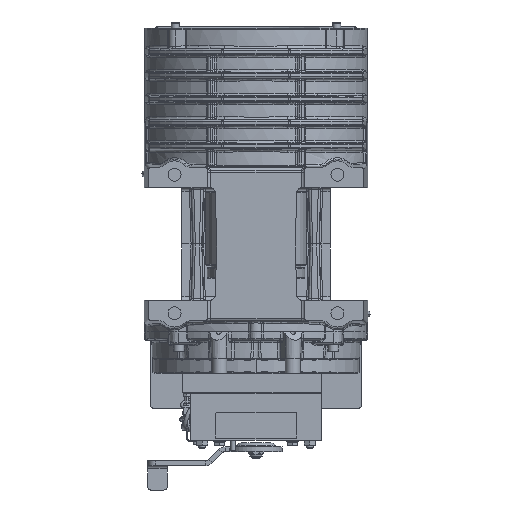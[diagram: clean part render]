
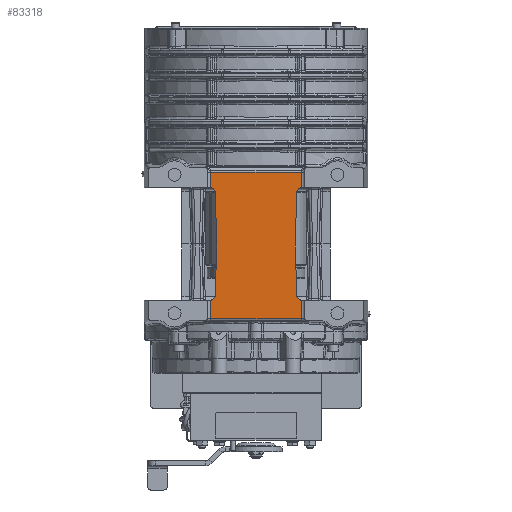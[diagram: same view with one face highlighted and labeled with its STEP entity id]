
A CAD part, front view. The second image highlights one B-rep face of the part: STEP entity #83318.
In plain terms, the highlighted planar face has unit normal (0, -1, 0).
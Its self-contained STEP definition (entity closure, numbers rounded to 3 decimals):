
#2184=DIRECTION('',(0.,0.,-1.));
#2185=VECTOR('',#2184,22.556);
#2186=CARTESIAN_POINT('',(-55.82,-145.,-68.988));
#2187=LINE('',#2186,#2185);
#2223=DIRECTION('',(1.,0.,0.));
#2224=VECTOR('',#2223,111.64);
#2225=CARTESIAN_POINT('',(-55.82,-145.,-91.544));
#2226=LINE('',#2225,#2224);
#24293=DIRECTION('',(0.,0.,1.));
#24294=VECTOR('',#24293,19.241);
#24295=CARTESIAN_POINT('',(55.82,-145.,68.988));
#24296=LINE('',#24295,#24294);
#24835=CARTESIAN_POINT('',(-56.204,-145.,-63.));
#24836=DIRECTION('',(0.,-1.,0.));
#24837=DIRECTION('',(0.064,0.,-0.998));
#24838=AXIS2_PLACEMENT_3D('',#24835,#24836,#24837);
#24840=DIRECTION('',(0.035,0.,0.999));
#24841=VECTOR('',#24840,63.248);
#24842=CARTESIAN_POINT('',(-50.207,-145.,-63.209));
#24843=LINE('',#24842,#24841);
#24844=DIRECTION('',(-0.035,0.,0.999));
#24845=VECTOR('',#24844,63.248);
#24846=CARTESIAN_POINT('',(-48.,-145.,0.));
#24847=LINE('',#24846,#24845);
#24848=CARTESIAN_POINT('',(-56.204,-145.,63.));
#24849=DIRECTION('',(0.,-1.,0.));
#24850=DIRECTION('',(0.999,0.,0.035));
#24851=AXIS2_PLACEMENT_3D('',#24848,#24849,#24850);
#24853=CARTESIAN_POINT('',(56.204,-145.,63.));
#24854=DIRECTION('',(0.,-1.,0.));
#24855=DIRECTION('',(-0.064,0.,0.998));
#24856=AXIS2_PLACEMENT_3D('',#24853,#24854,#24855);
#24858=DIRECTION('',(-0.035,0.,-0.999));
#24859=VECTOR('',#24858,63.248);
#24860=CARTESIAN_POINT('',(50.207,-145.,63.209));
#24861=LINE('',#24860,#24859);
#24862=DIRECTION('',(0.035,0.,-0.999));
#24863=VECTOR('',#24862,63.248);
#24864=CARTESIAN_POINT('',(48.,-145.,0.));
#24865=LINE('',#24864,#24863);
#24866=CARTESIAN_POINT('',(56.204,-145.,-63.));
#24867=DIRECTION('',(0.,-1.,0.));
#24868=DIRECTION('',(-0.999,0.,-0.035));
#24869=AXIS2_PLACEMENT_3D('',#24866,#24867,#24868);
#25660=DIRECTION('',(0.,0.,1.));
#25661=VECTOR('',#25660,22.556);
#25662=CARTESIAN_POINT('',(55.82,-145.,-91.544));
#25663=LINE('',#25662,#25661);
#25981=DIRECTION('',(0.,0.,-1.));
#25982=VECTOR('',#25981,19.241);
#25983=CARTESIAN_POINT('',(-55.82,-145.,88.229));
#25984=LINE('',#25983,#25982);
#28002=DIRECTION('',(-1.,0.,0.));
#28003=VECTOR('',#28002,111.64);
#28004=CARTESIAN_POINT('',(55.82,-145.,88.229));
#28005=LINE('',#28004,#28003);
#41615=CARTESIAN_POINT('',(-50.207,-145.,63.209));
#41616=CARTESIAN_POINT('',(-55.82,-145.,68.988));
#41617=VERTEX_POINT('',#41615);
#41618=VERTEX_POINT('',#41616);
#41619=CARTESIAN_POINT('',(-55.82,-145.,-91.544));
#41620=CARTESIAN_POINT('',(55.82,-145.,-91.544));
#41621=VERTEX_POINT('',#41619);
#41622=VERTEX_POINT('',#41620);
#41623=CARTESIAN_POINT('',(-55.82,-145.,-68.988));
#41624=VERTEX_POINT('',#41623);
#41625=CARTESIAN_POINT('',(-50.207,-145.,-63.209));
#41626=VERTEX_POINT('',#41625);
#41627=CARTESIAN_POINT('',(-48.,-145.,0.));
#41628=VERTEX_POINT('',#41627);
#41629=CARTESIAN_POINT('',(-55.82,-145.,88.229));
#41630=VERTEX_POINT('',#41629);
#41631=CARTESIAN_POINT('',(55.82,-145.,88.229));
#41632=VERTEX_POINT('',#41631);
#41633=CARTESIAN_POINT('',(55.82,-145.,68.988));
#41634=VERTEX_POINT('',#41633);
#41635=CARTESIAN_POINT('',(50.207,-145.,63.209));
#41636=VERTEX_POINT('',#41635);
#41637=CARTESIAN_POINT('',(48.,-145.,0.));
#41638=VERTEX_POINT('',#41637);
#41639=CARTESIAN_POINT('',(50.207,-145.,-63.209));
#41640=VERTEX_POINT('',#41639);
#41641=CARTESIAN_POINT('',(55.82,-145.,-68.988));
#41642=VERTEX_POINT('',#41641);
#83288=CARTESIAN_POINT('',(59.297,-145.,-125.));
#83289=DIRECTION('',(0.,1.,0.));
#83290=DIRECTION('',(-1.,0.,0.));
#83291=AXIS2_PLACEMENT_3D('',#83288,#83289,#83290);
#83292=PLANE('',#83291);
#83293=ORIENTED_EDGE('',*,*,#46661,.F.);
#83294=ORIENTED_EDGE('',*,*,#46567,.F.);
#83296=ORIENTED_EDGE('',*,*,#83295,.T.);
#83298=ORIENTED_EDGE('',*,*,#83297,.T.);
#83300=ORIENTED_EDGE('',*,*,#83299,.T.);
#83301=ORIENTED_EDGE('',*,*,#83277,.T.);
#83303=ORIENTED_EDGE('',*,*,#83302,.F.);
#83305=ORIENTED_EDGE('',*,*,#83304,.F.);
#83306=ORIENTED_EDGE('',*,*,#82184,.F.);
#83307=ORIENTED_EDGE('',*,*,#82201,.T.);
#83309=ORIENTED_EDGE('',*,*,#83308,.T.);
#83311=ORIENTED_EDGE('',*,*,#83310,.T.);
#83313=ORIENTED_EDGE('',*,*,#83312,.T.);
#83315=ORIENTED_EDGE('',*,*,#83314,.F.);
#83316=EDGE_LOOP('',(#83293,#83294,#83296,#83298,#83300,#83301,#83303,#83305,
#83306,#83307,#83309,#83311,#83313,#83315));
#83317=FACE_OUTER_BOUND('',#83316,.F.);
#83318=ADVANCED_FACE('',(#83317),#83292,.F.);
#24839=CIRCLE('',#24838,6.);
#24852=CIRCLE('',#24851,6.);
#24857=CIRCLE('',#24856,6.);
#24870=CIRCLE('',#24869,6.);
#46567=EDGE_CURVE('',#41624,#41621,#2187,.T.);
#46661=EDGE_CURVE('',#41621,#41622,#2226,.T.);
#82184=EDGE_CURVE('',#41634,#41632,#24296,.T.);
#82201=EDGE_CURVE('',#41634,#41636,#24857,.T.);
#83277=EDGE_CURVE('',#41617,#41618,#24852,.T.);
#83295=EDGE_CURVE('',#41624,#41626,#24839,.T.);
#83297=EDGE_CURVE('',#41626,#41628,#24843,.T.);
#83299=EDGE_CURVE('',#41628,#41617,#24847,.T.);
#83302=EDGE_CURVE('',#41630,#41618,#25984,.T.);
#83304=EDGE_CURVE('',#41632,#41630,#28005,.T.);
#83308=EDGE_CURVE('',#41636,#41638,#24861,.T.);
#83310=EDGE_CURVE('',#41638,#41640,#24865,.T.);
#83312=EDGE_CURVE('',#41640,#41642,#24870,.T.);
#83314=EDGE_CURVE('',#41622,#41642,#25663,.T.);
